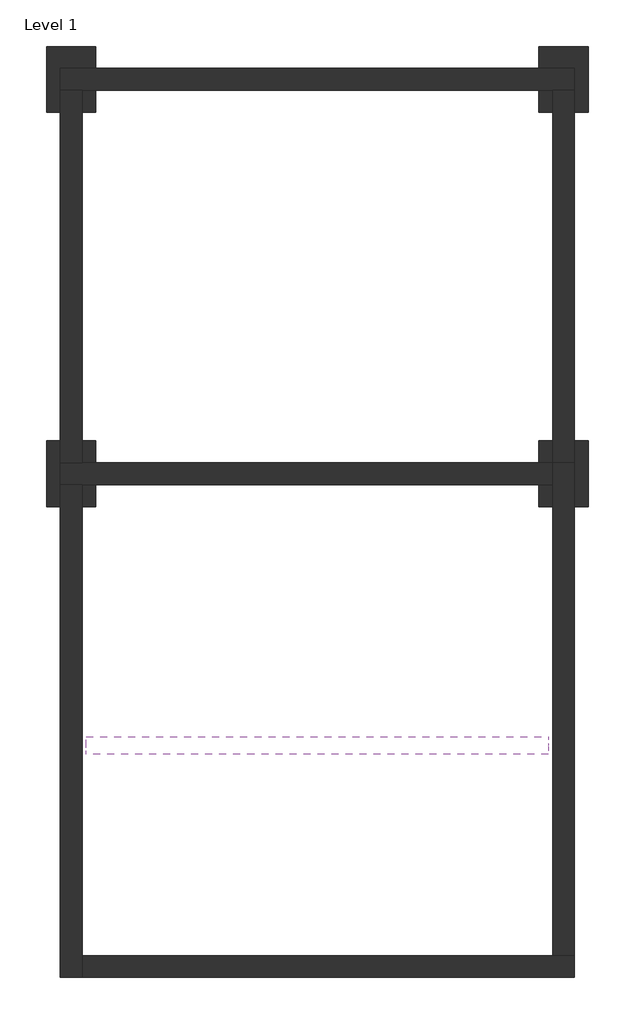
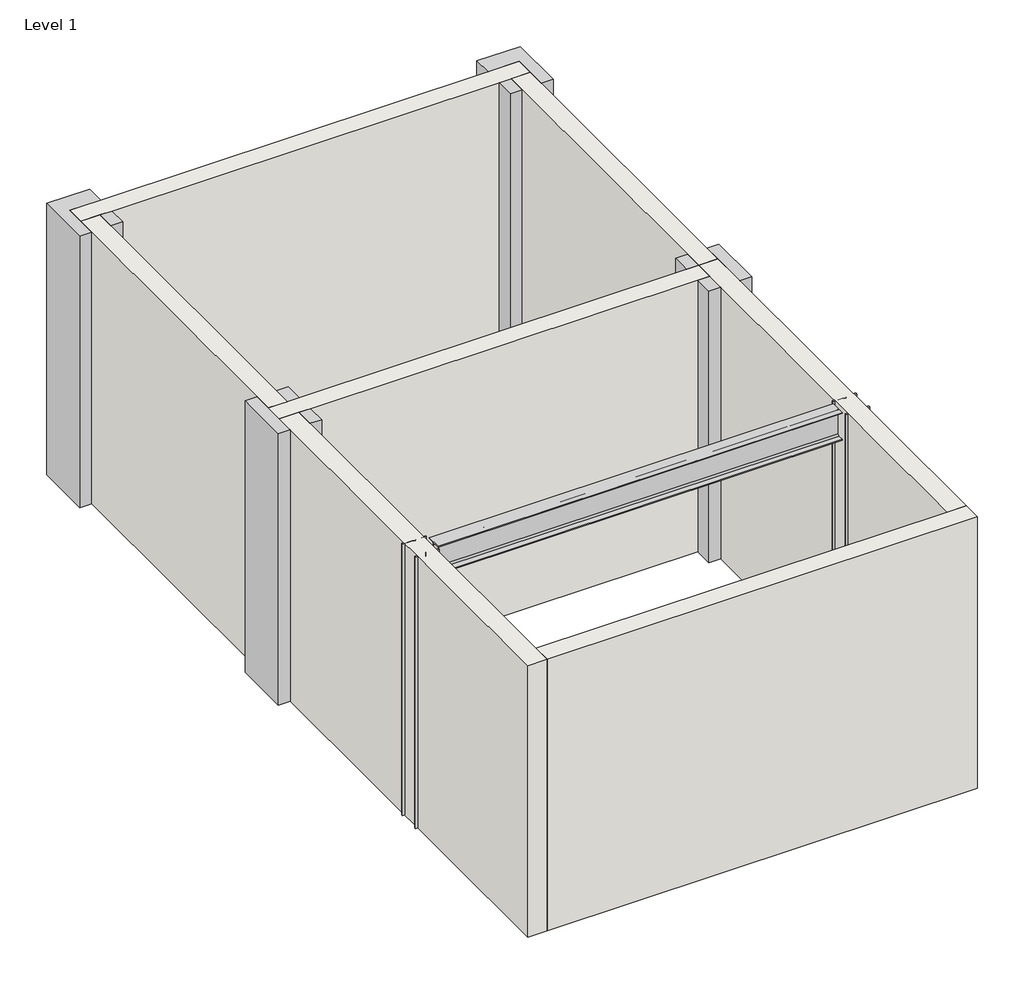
# One storey: 9 columns, 7 walls, 1 beam.
"""IFC4 building model written with IfcOpenShell, lengths in millimetres."""

from ifc_helpers import new_model, si_unit, origin, place, context, project, spatial, faceted_brep, transform, mapped, element, save
from components import w_wide_flange_w12x26_ad91ab04, w_wide_flange_column_w10x49_f24ffb9b

model = new_model("IFC4")

# Units and contexts
model_context = context("Model", 3, world=origin())
ifc_project = project(units=[si_unit("LENGTHUNIT", "METRE", prefix="MILLI")], contexts=[model_context])

# Site, building, storey
site = spatial("IfcSite", under=ifc_project)
building = spatial("IfcBuilding", under=site)
storey = spatial("IfcBuildingStorey", under=building, Name="Level 1", Elevation=0.0)

# Beam
placement = place(None, origin())
w_wide_flange_w12x26_shape = w_wide_flange_w12x26_ad91ab04(model_context)
element("IfcBeam", 1, ObjectType="W-Wide Flange : W12X26", at=placement, inside=storey, context=model_context, shape_type="MappedRepresentation", body=[
    mapped(w_wide_flange_w12x26_shape, transform((-15108.9871131, 4014.0177794, 2892.821875), x_axis=(1.0, 0.0, 0.0), y_axis=(0.0, 1.0, 0.0), z_axis=(0.0, 0.0, 1.0))),
])

# Columns
element("IfcColumn", 2, ObjectType="Concrete-Rectangular-Column : 18 x 24", at=placement, inside=storey, context=model_context, shape_type="Brep", body=[
    faceted_brep([(-17623.5871131, 6230.761515, 0.0), (-17623.5871131, 6840.361515, 0.0), (-17496.5871131, 6840.361515, 0.0), (-17496.5871131, 6637.161515, 0.0), (-17496.5871131, 6433.961515, 0.0), (-17496.5871131, 6230.761515, 0.0), (-17623.5871131, 6230.761515, 3048.0), (-17496.5871131, 6230.761515, 3048.0), (-17623.5871131, 6840.361515, 3048.0), (-17496.5871131, 6840.361515, 3048.0), (-17496.5871131, 6637.161515, 3048.0), (-17496.5871131, 6433.961515, 3048.0)], [[[0, 1, 2, 3, 4, 5]], [[6, 0, 5, 7]], [[1, 0, 6, 8]], [[1, 8, 9, 2]], [[7, 5, 4, 3, 2, 9, 10, 11]], [[8, 6, 7, 11, 10, 9]]]),
    faceted_brep([(-17166.3871131, 6230.761515, 3048.0), (-17166.3871131, 6230.761515, 0.0), (-17166.3871131, 6433.961515, 0.0), (-17166.3871131, 6433.961515, 3048.0), (-17293.3871131, 6433.961515, 3048.0), (-17293.3871131, 6230.761515, 3048.0), (-17293.3871131, 6433.961515, 0.0), (-17293.3871131, 6230.761515, 0.0)], [[[0, 1, 2, 3]], [[0, 3, 4, 5]], [[3, 2, 6, 4]], [[6, 7, 5, 4]], [[2, 1, 7, 6]], [[1, 0, 5, 7]]]),
    faceted_brep([(-17166.3871131, 6637.161515, 0.0), (-17166.3871131, 6637.161515, 3048.0), (-17293.3871131, 6637.161515, 3048.0), (-17293.3871131, 6637.161515, 0.0), (-17166.3871131, 6840.361515, 0.0), (-17166.3871131, 6840.361515, 3048.0), (-17293.3871131, 6840.361515, 3048.0), (-17293.3871131, 6840.361515, 0.0)], [[[0, 1, 2, 3]], [[4, 5, 1, 0]], [[1, 5, 6, 2]], [[7, 3, 2, 6]], [[4, 0, 3, 7]], [[5, 4, 7, 6]]]),
])
element("IfcColumn", 3, ObjectType="Concrete-Rectangular-Column : 18 x 24", at=placement, inside=storey, context=model_context, shape_type="Brep", body=[
    faceted_brep([(-13051.5871131, 6230.761515, 0.0), (-13051.5871131, 6433.961515, 0.0), (-12924.5871131, 6433.961515, 0.0), (-12924.5871131, 6230.761515, 0.0), (-13051.5871131, 6230.761515, 3048.0), (-12924.5871131, 6230.761515, 3048.0), (-13051.5871131, 6433.961515, 3048.0), (-12924.5871131, 6433.961515, 3048.0)], [[[0, 1, 2, 3]], [[4, 0, 3, 5]], [[2, 1, 6, 7]], [[0, 4, 6, 1]], [[3, 2, 7, 5]], [[6, 4, 5, 7]]]),
    faceted_brep([(-12594.3871131, 6230.761515, 0.0), (-12594.3871131, 6840.361515, 0.0), (-12594.3871131, 6840.361515, 3048.0), (-12594.3871131, 6230.761515, 3048.0), (-12721.3871131, 6840.361515, 3048.0), (-12721.3871131, 6637.161515, 3048.0), (-12721.3871131, 6230.761515, 3048.0), (-12721.3871131, 6230.761515, 0.0), (-12721.3871131, 6840.361515, 0.0), (-12721.3871131, 6637.161515, 0.0)], [[[0, 1, 2, 3]], [[3, 2, 4, 5, 6]], [[7, 6, 5, 4, 8, 9]], [[0, 3, 6, 7]], [[2, 1, 8, 4]], [[1, 0, 7, 9, 8]]]),
    faceted_brep([(-13051.5871131, 6840.361515, 3048.0), (-13051.5871131, 6840.361515, 0.0), (-13051.5871131, 6637.161515, 0.0), (-13051.5871131, 6637.161515, 3048.0), (-12924.5871131, 6840.361515, 3048.0), (-12924.5871131, 6840.361515, 0.0), (-12924.5871131, 6637.161515, 0.0), (-12924.5871131, 6637.161515, 3048.0)], [[[0, 1, 2, 3]], [[1, 0, 4, 5]], [[3, 2, 6, 7]], [[2, 1, 5, 6]], [[5, 4, 7, 6]], [[0, 3, 7, 4]]]),
])
element("IfcColumn", 4, ObjectType="Concrete-Rectangular-Column : 18 x 24", at=placement, inside=storey, context=model_context, shape_type="Brep", body=[
    faceted_brep([(-17623.5871131, 9888.361515, 0.0), (-17623.5871131, 10497.961515, 0.0), (-17166.3871131, 10497.961515, 0.0), (-17166.3871131, 10294.761515, 0.0), (-17496.5871131, 10294.761515, 0.0), (-17496.5871131, 10091.561515, 0.0), (-17496.5871131, 9888.361515, 0.0), (-17623.5871131, 9888.361515, 3048.0), (-17496.5871131, 9888.361515, 3048.0), (-17623.5871131, 10497.961515, 3048.0), (-17166.3871131, 10497.961515, 3048.0), (-17496.5871131, 10294.761515, 3048.0), (-17496.5871131, 10091.561515, 3048.0), (-17166.3871131, 10294.761515, 3048.0)], [[[0, 1, 2, 3, 4, 5, 6]], [[7, 0, 6, 8]], [[1, 0, 7, 9]], [[2, 1, 9, 10]], [[4, 11, 12, 8, 6, 5]], [[11, 4, 3, 13]], [[2, 10, 13, 3]], [[9, 7, 8, 12, 11, 13, 10]]]),
    faceted_brep([(-17166.3871131, 9888.361515, 3048.0), (-17166.3871131, 9888.361515, 0.0), (-17166.3871131, 10091.561515, 0.0), (-17166.3871131, 10091.561515, 3048.0), (-17293.3871131, 9888.361515, 3048.0), (-17293.3871131, 10091.561515, 3048.0), (-17293.3871131, 10091.561515, 0.0), (-17293.3871131, 9888.361515, 0.0)], [[[0, 1, 2, 3]], [[4, 0, 3, 5]], [[6, 7, 4, 5]], [[1, 0, 4, 7]], [[2, 6, 5, 3]], [[1, 7, 6, 2]]]),
])
element("IfcColumn", 5, ObjectType="Concrete-Rectangular-Column : 18 x 24", at=placement, inside=storey, context=model_context, shape_type="Brep", body=[
    faceted_brep([(-13051.5871131, 9888.361515, 0.0), (-13051.5871131, 10091.561515, 0.0), (-12924.5871131, 10091.561515, 0.0), (-12924.5871131, 9888.361515, 0.0), (-13051.5871131, 9888.361515, 3048.0), (-12924.5871131, 9888.361515, 3048.0), (-13051.5871131, 10091.561515, 3048.0), (-12924.5871131, 10091.561515, 3048.0)], [[[0, 1, 2, 3]], [[4, 0, 3, 5]], [[1, 6, 7, 2]], [[0, 4, 6, 1]], [[3, 2, 7, 5]], [[6, 4, 5, 7]]]),
    faceted_brep([(-12594.3871131, 9888.361515, 0.0), (-12594.3871131, 10497.961515, 0.0), (-12594.3871131, 10497.961515, 3048.0), (-12594.3871131, 9888.361515, 3048.0), (-13051.5871131, 10497.961515, 3048.0), (-13051.5871131, 10497.961515, 0.0), (-13051.5871131, 10294.761515, 0.0), (-13051.5871131, 10294.761515, 3048.0), (-12721.3871131, 10294.761515, 3048.0), (-12721.3871131, 10091.561515, 3048.0), (-12721.3871131, 9888.361515, 3048.0), (-12721.3871131, 10294.761515, 0.0), (-12721.3871131, 10091.561515, 0.0), (-12721.3871131, 9888.361515, 0.0)], [[[0, 1, 2, 3]], [[4, 5, 6, 7]], [[1, 5, 4, 2]], [[3, 2, 4, 7, 8, 9, 10]], [[11, 8, 7, 6]], [[8, 11, 12, 13, 10, 9]], [[1, 0, 13, 12, 11, 6, 5]], [[0, 3, 10, 13]]]),
])
element("IfcColumn", 6, ObjectType="Concrete-Rectangular-Column : 18 x 24", at=placement, inside=storey, context=model_context, shape_type="Brep", body=[
    faceted_brep([(-17623.5871131, 6230.761515, 0.0), (-17623.5871131, 6840.361515, 0.0), (-17496.5871131, 6840.361515, 0.0), (-17496.5871131, 6637.161515, 0.0), (-17496.5871131, 6433.961515, 0.0), (-17496.5871131, 6230.761515, 0.0), (-17623.5871131, 6230.761515, 3048.0), (-17496.5871131, 6230.761515, 3048.0), (-17623.5871131, 6840.361515, 3048.0), (-17496.5871131, 6840.361515, 3048.0), (-17496.5871131, 6637.161515, 3048.0), (-17496.5871131, 6433.961515, 3048.0)], [[[0, 1, 2, 3, 4, 5]], [[6, 0, 5, 7]], [[1, 0, 6, 8]], [[1, 8, 9, 2]], [[7, 5, 4, 3, 2, 9, 10, 11]], [[8, 6, 7, 11, 10, 9]]]),
    faceted_brep([(-17166.3871131, 6230.761515, 3048.0), (-17166.3871131, 6230.761515, 0.0), (-17166.3871131, 6433.961515, 0.0), (-17166.3871131, 6433.961515, 3048.0), (-17293.3871131, 6433.961515, 3048.0), (-17293.3871131, 6230.761515, 3048.0), (-17293.3871131, 6433.961515, 0.0), (-17293.3871131, 6230.761515, 0.0)], [[[0, 1, 2, 3]], [[0, 3, 4, 5]], [[3, 2, 6, 4]], [[6, 7, 5, 4]], [[2, 1, 7, 6]], [[1, 0, 5, 7]]]),
    faceted_brep([(-17166.3871131, 6637.161515, 0.0), (-17166.3871131, 6637.161515, 3048.0), (-17293.3871131, 6637.161515, 3048.0), (-17293.3871131, 6637.161515, 0.0), (-17166.3871131, 6840.361515, 0.0), (-17166.3871131, 6840.361515, 3048.0), (-17293.3871131, 6840.361515, 3048.0), (-17293.3871131, 6840.361515, 0.0)], [[[0, 1, 2, 3]], [[4, 5, 1, 0]], [[1, 5, 6, 2]], [[7, 3, 2, 6]], [[4, 0, 3, 7]], [[5, 4, 7, 6]]]),
])
element("IfcColumn", 7, ObjectType="Concrete-Rectangular-Column : 18 x 24", at=placement, inside=storey, context=model_context, shape_type="Brep", body=[
    faceted_brep([(-13051.5871131, 6230.761515, 0.0), (-13051.5871131, 6433.961515, 0.0), (-12924.5871131, 6433.961515, 0.0), (-12924.5871131, 6230.761515, 0.0), (-13051.5871131, 6230.761515, 3048.0), (-12924.5871131, 6230.761515, 3048.0), (-13051.5871131, 6433.961515, 3048.0), (-12924.5871131, 6433.961515, 3048.0)], [[[0, 1, 2, 3]], [[4, 0, 3, 5]], [[2, 1, 6, 7]], [[0, 4, 6, 1]], [[3, 2, 7, 5]], [[6, 4, 5, 7]]]),
    faceted_brep([(-12594.3871131, 6230.761515, 0.0), (-12594.3871131, 6840.361515, 0.0), (-12594.3871131, 6840.361515, 3048.0), (-12594.3871131, 6230.761515, 3048.0), (-12721.3871131, 6840.361515, 3048.0), (-12721.3871131, 6637.161515, 3048.0), (-12721.3871131, 6230.761515, 3048.0), (-12721.3871131, 6230.761515, 0.0), (-12721.3871131, 6840.361515, 0.0), (-12721.3871131, 6637.161515, 0.0)], [[[0, 1, 2, 3]], [[3, 2, 4, 5, 6]], [[7, 6, 5, 4, 8, 9]], [[0, 3, 6, 7]], [[2, 1, 8, 4]], [[1, 0, 7, 9, 8]]]),
    faceted_brep([(-13051.5871131, 6840.361515, 3048.0), (-13051.5871131, 6840.361515, 0.0), (-13051.5871131, 6637.161515, 0.0), (-13051.5871131, 6637.161515, 3048.0), (-12924.5871131, 6840.361515, 3048.0), (-12924.5871131, 6840.361515, 0.0), (-12924.5871131, 6637.161515, 0.0), (-12924.5871131, 6637.161515, 3048.0)], [[[0, 1, 2, 3]], [[1, 0, 4, 5]], [[3, 2, 6, 7]], [[2, 1, 5, 6]], [[5, 4, 7, 6]], [[0, 3, 7, 4]]]),
])
element("IfcColumn", 8, ObjectType="Concrete-Rectangular-Column : 18 x 24", at=placement, inside=storey, context=model_context, shape_type="Brep", body=[
    faceted_brep([(-13051.5871131, 6230.761515, 0.0), (-13051.5871131, 6433.961515, 0.0), (-12924.5871131, 6433.961515, 0.0), (-12924.5871131, 6230.761515, 0.0), (-13051.5871131, 6230.761515, 3048.0), (-12924.5871131, 6230.761515, 3048.0), (-13051.5871131, 6433.961515, 3048.0), (-12924.5871131, 6433.961515, 3048.0)], [[[0, 1, 2, 3]], [[4, 0, 3, 5]], [[2, 1, 6, 7]], [[0, 4, 6, 1]], [[3, 2, 7, 5]], [[6, 4, 5, 7]]]),
    faceted_brep([(-12594.3871131, 6230.761515, 0.0), (-12594.3871131, 6840.361515, 0.0), (-12594.3871131, 6840.361515, 3048.0), (-12594.3871131, 6230.761515, 3048.0), (-12721.3871131, 6840.361515, 3048.0), (-12721.3871131, 6637.161515, 3048.0), (-12721.3871131, 6230.761515, 3048.0), (-12721.3871131, 6230.761515, 0.0), (-12721.3871131, 6840.361515, 0.0), (-12721.3871131, 6637.161515, 0.0)], [[[0, 1, 2, 3]], [[3, 2, 4, 5, 6]], [[7, 6, 5, 4, 8, 9]], [[0, 3, 6, 7]], [[2, 1, 8, 4]], [[1, 0, 7, 9, 8]]]),
    faceted_brep([(-13051.5871131, 6840.361515, 3048.0), (-13051.5871131, 6840.361515, 0.0), (-13051.5871131, 6637.161515, 0.0), (-13051.5871131, 6637.161515, 3048.0), (-12924.5871131, 6840.361515, 3048.0), (-12924.5871131, 6840.361515, 0.0), (-12924.5871131, 6637.161515, 0.0), (-12924.5871131, 6637.161515, 3048.0)], [[[0, 1, 2, 3]], [[1, 0, 4, 5]], [[3, 2, 6, 7]], [[2, 1, 5, 6]], [[5, 4, 7, 6]], [[0, 3, 7, 4]]]),
])
w_wide_flange_column_w10x49_shape = w_wide_flange_column_w10x49_f24ffb9b(model_context)
element("IfcColumn", 9, ObjectType="W-Wide Flange-Column : W10X49", at=placement, inside=storey, context=model_context, shape_type="MappedRepresentation", body=[
    mapped(w_wide_flange_column_w10x49_shape, transform((-17394.9871131, 4014.0177794, 0.0), x_axis=(1.0, 0.0, 0.0), y_axis=(0.0, 1.0, 0.0), z_axis=(0.0, 0.0, 1.0))),
])
element("IfcColumn", 10, ObjectType="W-Wide Flange-Column : W10X49", at=placement, inside=storey, context=model_context, shape_type="MappedRepresentation", body=[
    mapped(w_wide_flange_column_w10x49_shape, transform((-12822.9871131, 4014.0177794, 0.0), x_axis=(1.0, 0.0, 0.0), y_axis=(0.0, 1.0, 0.0), z_axis=(0.0, 0.0, 1.0))),
])

# Walls
element("IfcWall", 11, ObjectType="Generic - 8\"", at=placement, inside=storey, context=model_context, shape_type="Brep", body=[
    faceted_brep([(-17496.5871131, 6433.961515, 0.0), (-17293.3871131, 6433.961515, 0.0), (-17166.3871131, 6433.961515, 0.0), (-13051.5871131, 6433.961515, 0.0), (-12924.5871131, 6433.961515, 0.0), (-12924.5871131, 6433.961515, 3048.0), (-13051.5871131, 6433.961515, 3048.0), (-17166.3871131, 6433.961515, 3048.0), (-17293.3871131, 6433.961515, 3048.0), (-17496.5871131, 6433.961515, 3048.0), (-17496.5871131, 6637.161515, 0.0), (-17496.5871131, 6637.161515, 3048.0), (-17293.3871131, 6637.161515, 3048.0), (-17166.3871131, 6637.161515, 3048.0), (-13051.5871131, 6637.161515, 3048.0), (-12924.5871131, 6637.161515, 3048.0), (-12924.5871131, 6637.161515, 0.0), (-13051.5871131, 6637.161515, 0.0), (-17166.3871131, 6637.161515, 0.0), (-17293.3871131, 6637.161515, 0.0)], [[[0, 1, 2, 3, 4, 5, 6, 7, 8, 9]], [[10, 11, 12, 13, 14, 15, 16, 17, 18, 19]], [[4, 3, 2, 1, 0, 10, 19, 18, 17, 16]], [[9, 8, 7, 6, 5, 15, 14, 13, 12, 11]], [[0, 9, 11, 10]], [[5, 4, 16, 15]]]),
])
element("IfcWall", 12, ObjectType="Generic - 8\"", at=placement, inside=storey, context=model_context, shape_type="Brep", body=[
    faceted_brep([(-17293.3871131, 1861.961515, 0.0), (-17293.3871131, 2065.161515, 0.0), (-17293.3871131, 6230.761515, 0.0), (-17293.3871131, 6433.961515, 0.0), (-17293.3871131, 6433.961515, 3048.0), (-17293.3871131, 6230.761515, 3048.0), (-17293.3871131, 2065.161515, 3048.0), (-17293.3871131, 1861.961515, 3048.0), (-17496.5871131, 1861.961515, 0.0), (-17496.5871131, 1861.961515, 3048.0), (-17496.5871131, 6230.761515, 3048.0), (-17496.5871131, 6433.961515, 3048.0), (-17496.5871131, 6433.961515, 0.0), (-17496.5871131, 6230.761515, 0.0)], [[[0, 1, 2, 3, 4, 5, 6, 7]], [[8, 9, 10, 11, 12, 13]], [[3, 2, 1, 0, 8, 13, 12]], [[7, 6, 5, 4, 11, 10, 9]], [[0, 7, 9, 8]], [[4, 3, 12, 11]]]),
])
element("IfcWall", 13, ObjectType="Generic - 8\"", at=placement, inside=storey, context=model_context, shape_type="Brep", body=[
    faceted_brep([(-12721.3871131, 2065.161515, 0.0), (-12924.5871131, 2065.161515, 0.0), (-17293.3871131, 2065.161515, 0.0), (-17293.3871131, 2065.161515, 3048.0), (-12924.5871131, 2065.161515, 3048.0), (-12721.3871131, 2065.161515, 3048.0), (-12721.3871131, 1861.961515, 0.0), (-12721.3871131, 1861.961515, 3048.0), (-17293.3871131, 1861.961515, 3048.0), (-17293.3871131, 1861.961515, 0.0)], [[[0, 1, 2, 3, 4, 5]], [[6, 7, 8, 9]], [[2, 1, 0, 6, 9]], [[5, 4, 3, 8, 7]], [[0, 5, 7, 6]], [[3, 2, 9, 8]]]),
])
element("IfcWall", 14, ObjectType="Generic - 8\"", at=placement, inside=storey, context=model_context, shape_type="Brep", body=[
    faceted_brep([(-12924.5871131, 6637.161515, 0.0), (-12924.5871131, 6433.961515, 0.0), (-12924.5871131, 6230.761515, 0.0), (-12924.5871131, 2065.161515, 0.0), (-12924.5871131, 2065.161515, 3048.0), (-12924.5871131, 6230.761515, 3048.0), (-12924.5871131, 6433.961515, 3048.0), (-12924.5871131, 6637.161515, 3048.0), (-12721.3871131, 6637.161515, 0.0), (-12721.3871131, 6637.161515, 3048.0), (-12721.3871131, 6230.761515, 3048.0), (-12721.3871131, 2065.161515, 3048.0), (-12721.3871131, 2065.161515, 0.0), (-12721.3871131, 6230.761515, 0.0)], [[[0, 1, 2, 3, 4, 5, 6, 7]], [[8, 9, 10, 11, 12, 13]], [[3, 2, 1, 0, 8, 13, 12]], [[7, 6, 5, 4, 11, 10, 9]], [[0, 7, 9, 8]], [[4, 3, 12, 11]]]),
])
element("IfcWall", 15, ObjectType="Generic - 8\"", at=placement, inside=storey, context=model_context, shape_type="Brep", body=[
    faceted_brep([(-17293.3871131, 6637.161515, 0.0), (-17293.3871131, 6840.361515, 0.0), (-17293.3871131, 9888.361515, 0.0), (-17293.3871131, 10091.561515, 0.0), (-17293.3871131, 10091.561515, 3048.0), (-17293.3871131, 9888.361515, 3048.0), (-17293.3871131, 6840.361515, 3048.0), (-17293.3871131, 6637.161515, 3048.0), (-17496.5871131, 6637.161515, 0.0), (-17496.5871131, 6637.161515, 3048.0), (-17496.5871131, 6840.361515, 3048.0), (-17496.5871131, 9888.361515, 3048.0), (-17496.5871131, 10091.561515, 3048.0), (-17496.5871131, 10091.561515, 0.0), (-17496.5871131, 9888.361515, 0.0), (-17496.5871131, 6840.361515, 0.0)], [[[0, 1, 2, 3, 4, 5, 6, 7]], [[8, 9, 10, 11, 12, 13, 14, 15]], [[3, 2, 1, 0, 8, 15, 14, 13]], [[7, 6, 5, 4, 12, 11, 10, 9]], [[0, 7, 9, 8]], [[4, 3, 13, 12]]]),
])
element("IfcWall", 16, ObjectType="Generic - 8\"", at=placement, inside=storey, context=model_context, shape_type="Brep", body=[
    faceted_brep([(-17496.5871131, 10091.561515, 0.0), (-17293.3871131, 10091.561515, 0.0), (-17166.3871131, 10091.561515, 0.0), (-13051.5871131, 10091.561515, 0.0), (-12924.5871131, 10091.561515, 0.0), (-12721.3871131, 10091.561515, 0.0), (-12721.3871131, 10091.561515, 3048.0), (-12924.5871131, 10091.561515, 3048.0), (-13051.5871131, 10091.561515, 3048.0), (-17166.3871131, 10091.561515, 3048.0), (-17293.3871131, 10091.561515, 3048.0), (-17496.5871131, 10091.561515, 3048.0), (-17496.5871131, 10294.761515, 0.0), (-17496.5871131, 10294.761515, 3048.0), (-17166.3871131, 10294.761515, 3048.0), (-13051.5871131, 10294.761515, 3048.0), (-12721.3871131, 10294.761515, 3048.0), (-12721.3871131, 10294.761515, 0.0), (-13051.5871131, 10294.761515, 0.0), (-17166.3871131, 10294.761515, 0.0)], [[[0, 1, 2, 3, 4, 5, 6, 7, 8, 9, 10, 11]], [[12, 13, 14, 15, 16, 17, 18, 19]], [[5, 4, 3, 2, 1, 0, 12, 19, 18, 17]], [[11, 10, 9, 8, 7, 6, 16, 15, 14, 13]], [[0, 11, 13, 12]], [[6, 5, 17, 16]]]),
])
element("IfcWall", 17, ObjectType="Generic - 8\"", at=placement, inside=storey, context=model_context, shape_type="Brep", body=[
    faceted_brep([(-12924.5871131, 10091.561515, 0.0), (-12924.5871131, 9888.361515, 0.0), (-12924.5871131, 6840.361515, 0.0), (-12924.5871131, 6637.161515, 0.0), (-12924.5871131, 6637.161515, 3048.0), (-12924.5871131, 6840.361515, 3048.0), (-12924.5871131, 9888.361515, 3048.0), (-12924.5871131, 10091.561515, 3048.0), (-12721.3871131, 10091.561515, 0.0), (-12721.3871131, 10091.561515, 3048.0), (-12721.3871131, 9888.361515, 3048.0), (-12721.3871131, 6840.361515, 3048.0), (-12721.3871131, 6637.161515, 3048.0), (-12721.3871131, 6637.161515, 0.0), (-12721.3871131, 6840.361515, 0.0), (-12721.3871131, 9888.361515, 0.0)], [[[0, 1, 2, 3, 4, 5, 6, 7]], [[8, 9, 10, 11, 12, 13, 14, 15]], [[3, 2, 1, 0, 8, 15, 14, 13]], [[7, 6, 5, 4, 12, 11, 10, 9]], [[4, 3, 13, 12]], [[0, 7, 9, 8]]]),
])

save(model, "model.ifc")
